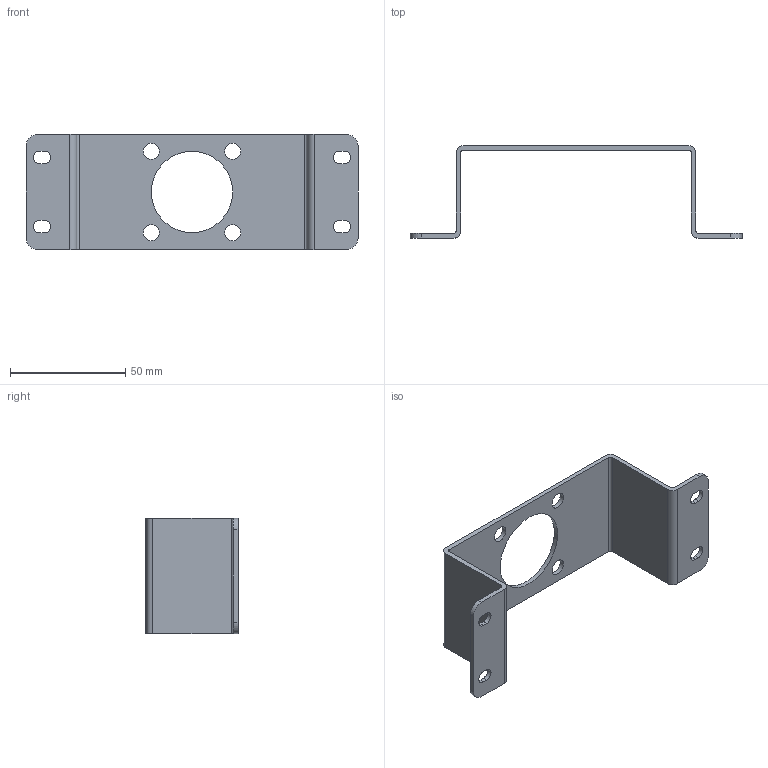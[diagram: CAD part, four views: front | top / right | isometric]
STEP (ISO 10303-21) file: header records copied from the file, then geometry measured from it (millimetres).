
FILE_DESCRIPTION(/* description */ ('Eriks item no: 12937976'),/* implementation_level */ '2;1');
FILE_NAME(/* name */ 'L:\DATA\ENG\Inventor\Econ 3D modellen\switchbox\HKC\Econ switchbox 79652\Bracket 130x30-F05 high.stp',/* time_stamp */ '2024-01-16T13:24:25+01:00',/* author */ ('roger.thijssen'),/* organization */ (''),/* preprocessor_version */ 'ST-DEVELOPER v18',/* originating_system */ 'Autodesk Inventor 2020',/* authorisation */ '');
FILE_SCHEMA (('CONFIG_CONTROL_DESIGN'));
Length unit declared in the file: millimetre
Products named in the file (1): Bracket 130x30-F05 high
Bounding box: 144 x 40 x 50 mm (x, y, z)
Volume: 19081.5 mm3; surface area: 20697.9 mm2
Topology: 1 solids, 1 shells, 47 faces, 135 edges, 90 vertices
Faces by surface type: cylinder 25, plane 22
Full cylindrical faces by diameter (mm): 7 x4, 35.2 x1
Entity records: 1636 total; most frequent: DIRECTION 281, CARTESIAN_POINT 273, ORIENTED_EDGE 270, EDGE_CURVE 135, AXIS2_PLACEMENT_3D 98, VERTEX_POINT 90, LINE 85, VECTOR 85
